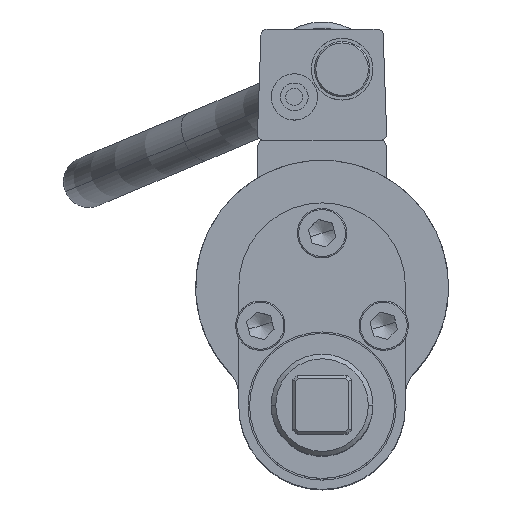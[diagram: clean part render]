
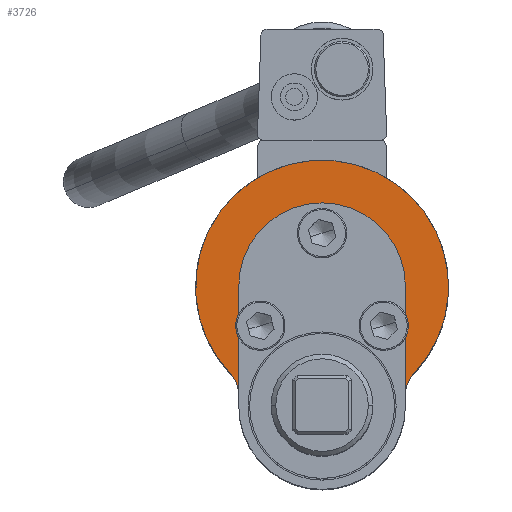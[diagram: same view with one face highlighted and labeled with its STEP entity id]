
A CAD part, top view. The second image highlights one B-rep face of the part: STEP entity #3726.
In plain terms, the highlighted planar face has unit normal (0, 0, 1).
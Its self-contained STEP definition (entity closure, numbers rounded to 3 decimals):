
#3565=AXIS2_PLACEMENT_3D('Circle Axis2P3D',#3563,#3564,$) ;
#3660=AXIS2_PLACEMENT_3D('Circle Axis2P3D',#3658,#3659,$) ;
#3684=AXIS2_PLACEMENT_3D('Circle Axis2P3D',#3682,#3683,$) ;
#3697=AXIS2_PLACEMENT_3D('Plane Axis2P3D',#3694,#3695,#3696) ;
#3708=AXIS2_PLACEMENT_3D('Circle Axis2P3D',#3706,#3707,$) ;
#3553=CARTESIAN_POINT('Vertex',(29.745,-28.218,385.6)) ;
#3560=CARTESIAN_POINT('Vertex',(-29.745,-28.218,385.6)) ;
#3563=CARTESIAN_POINT('Axis2P3D Location',(0.,0.,385.6)) ;
#3655=CARTESIAN_POINT('Vertex',(27.,-35.1,385.6)) ;
#3658=CARTESIAN_POINT('Axis2P3D Location',(37.,-35.1,385.6)) ;
#3679=CARTESIAN_POINT('Vertex',(-27.,-35.1,385.6)) ;
#3682=CARTESIAN_POINT('Axis2P3D Location',(-37.,-35.1,385.6)) ;
#3694=CARTESIAN_POINT('Axis2P3D Location',(0.,0.,385.6)) ;
#3699=CARTESIAN_POINT('Line Origine',(-27.,-17.55,385.6)) ;
#3703=CARTESIAN_POINT('Vertex',(-27.,0.,385.6)) ;
#3706=CARTESIAN_POINT('Axis2P3D Location',(0.,0.,385.6)) ;
#3710=CARTESIAN_POINT('Vertex',(27.,0.,385.6)) ;
#3713=CARTESIAN_POINT('Line Origine',(27.,-17.55,385.6)) ;
#3564=DIRECTION('Axis2P3D Direction',(0.,0.,1.)) ;
#3659=DIRECTION('Axis2P3D Direction',(0.,0.,1.)) ;
#3683=DIRECTION('Axis2P3D Direction',(0.,0.,1.)) ;
#3695=DIRECTION('Axis2P3D Direction',(0.,0.,1.)) ;
#3696=DIRECTION('Axis2P3D XDirection',(1.,0.,0.)) ;
#3700=DIRECTION('Vector Direction',(0.,-1.,0.)) ;
#3707=DIRECTION('Axis2P3D Direction',(0.,0.,1.)) ;
#3714=DIRECTION('Vector Direction',(0.,-1.,0.)) ;
#3701=VECTOR('Line Direction',#3700,1.) ;
#3715=VECTOR('Line Direction',#3714,1.) ;
#3719=ORIENTED_EDGE('',*,*,#3662,.T.) ;
#3720=ORIENTED_EDGE('',*,*,#3567,.T.) ;
#3721=ORIENTED_EDGE('',*,*,#3686,.T.) ;
#3722=ORIENTED_EDGE('',*,*,#3705,.F.) ;
#3723=ORIENTED_EDGE('',*,*,#3712,.F.) ;
#3724=ORIENTED_EDGE('',*,*,#3717,.F.) ;
#3726=ADVANCED_FACE('AO-350.1\\AO350.1\\Hauptk\X2\00F6\X0\rper',(#3725),#3698,.T.) ;
#3566=CIRCLE('generated circle',#3565,41.) ;
#3661=CIRCLE('generated circle',#3660,10.) ;
#3685=CIRCLE('generated circle',#3684,10.) ;
#3709=CIRCLE('generated circle',#3708,27.) ;
#3567=EDGE_CURVE('',#3554,#3561,#3566,.T.) ;
#3662=EDGE_CURVE('',#3656,#3554,#3661,.F.) ;
#3686=EDGE_CURVE('',#3561,#3680,#3685,.F.) ;
#3705=EDGE_CURVE('',#3704,#3680,#3702,.T.) ;
#3712=EDGE_CURVE('',#3711,#3704,#3709,.T.) ;
#3717=EDGE_CURVE('',#3656,#3711,#3716,.F.) ;
#3718=EDGE_LOOP('',(#3719,#3720,#3721,#3722,#3723,#3724)) ;
#3725=FACE_OUTER_BOUND('',#3718,.T.) ;
#3702=LINE('Line',#3699,#3701) ;
#3716=LINE('Line',#3713,#3715) ;
#3698=PLANE('Plane',#3697) ;
#3554=VERTEX_POINT('',#3553) ;
#3561=VERTEX_POINT('',#3560) ;
#3656=VERTEX_POINT('',#3655) ;
#3680=VERTEX_POINT('',#3679) ;
#3704=VERTEX_POINT('',#3703) ;
#3711=VERTEX_POINT('',#3710) ;
